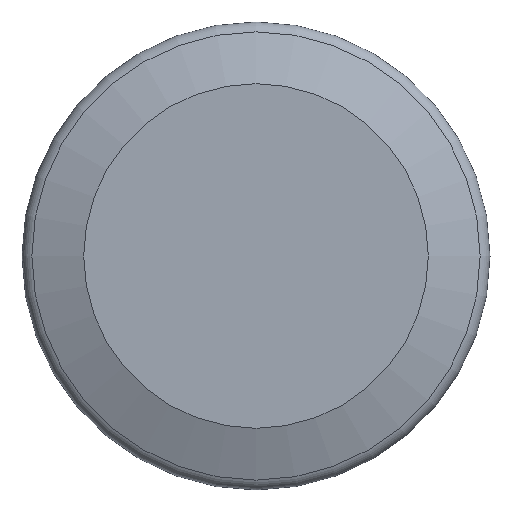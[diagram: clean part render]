
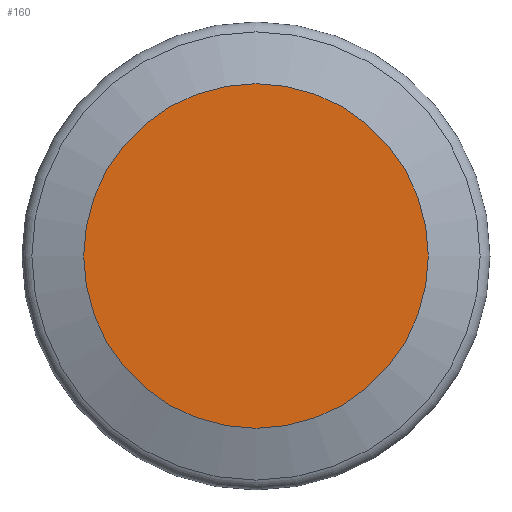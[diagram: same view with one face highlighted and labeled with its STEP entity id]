
A CAD part, left-side view. The second image highlights one B-rep face of the part: STEP entity #160.
In plain terms, the highlighted planar face has unit normal (-1, 0, 0).
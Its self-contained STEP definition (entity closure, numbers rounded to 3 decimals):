
#15=PLANE('',#209);
#38=FACE_OUTER_BOUND('',#49,.T.);
#49=EDGE_LOOP('',(#132));
#63=CIRCLE('',#200,9.203);
#75=VERTEX_POINT('',#292);
#90=EDGE_CURVE('',#75,#75,#63,.T.);
#132=ORIENTED_EDGE('',*,*,#90,.T.);
#160=ADVANCED_FACE('',(#38),#15,.F.);
#200=AXIS2_PLACEMENT_3D('',#294,#243,#244);
#209=AXIS2_PLACEMENT_3D('',#309,#264,#265);
#243=DIRECTION('center_axis',(-1.,0.,0.));
#244=DIRECTION('ref_axis',(0.,-1.,0.));
#264=DIRECTION('center_axis',(1.,0.,0.));
#265=DIRECTION('ref_axis',(0.,1.,0.));
#292=CARTESIAN_POINT('',(-9.496,-10.249,0.));
#294=CARTESIAN_POINT('Origin',(-9.496,-1.046,0.));
#309=CARTESIAN_POINT('Origin',(-9.496,8.157,0.));
